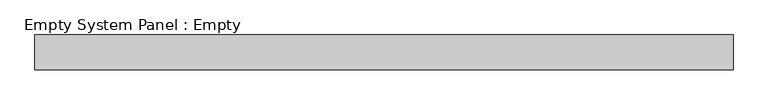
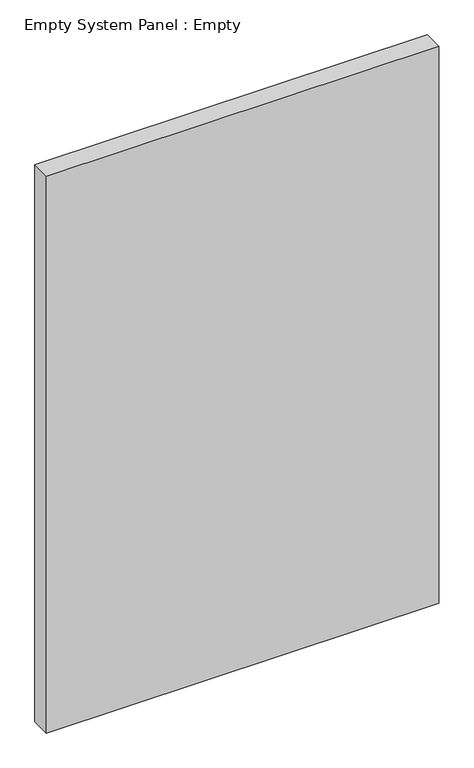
"""IFC4 building model written with IfcOpenShell, lengths in millimetres: plate geometry, Empty System Panel : Empty."""

from ifc_helpers import new_model, si_unit, origin, origin_with_axes, place, context, project, spatial, polyline, outline, extrude, source, transform, mapped, element, save


def empty_system_panel_empty_63adb5f1(model_context):
    return source(origin(), model_context, "Body", "SweptSolid", [
        extrude(outline(polyline([(1000.0000001, -50.0), (-1000.0000001, -50.0), (-1000.0000001, 50.0), (1000.0000001, 50.0), (1000.0000001, -50.0)])), origin_with_axes(), (0.0, 0.0, 1.0), 3000.0),
    ])


if __name__ == "__main__":
    model = new_model("IFC4")
    model_context = context("Model", 3, world=origin())
    ifc_project = project(units=[si_unit("LENGTHUNIT", "METRE", prefix="MILLI")], contexts=[model_context])
    site = spatial("IfcSite", under=ifc_project)
    building = spatial("IfcBuilding", under=site)
    placement = place(None, origin())
    empty_system_panel_empty_shape = empty_system_panel_empty_63adb5f1(model_context)
    element("IfcPlate", 1, ObjectType="Empty System Panel : Empty", at=placement, inside=building, context=model_context, shape_type="MappedRepresentation", body=[
        mapped(empty_system_panel_empty_shape, transform((0.0, 0.0, 0.0), x_axis=(1.0, 0.0, 0.0), y_axis=(0.0, 1.0, 0.0), z_axis=(0.0, 0.0, 1.0))),
    ])
    save(model, "model.ifc")
